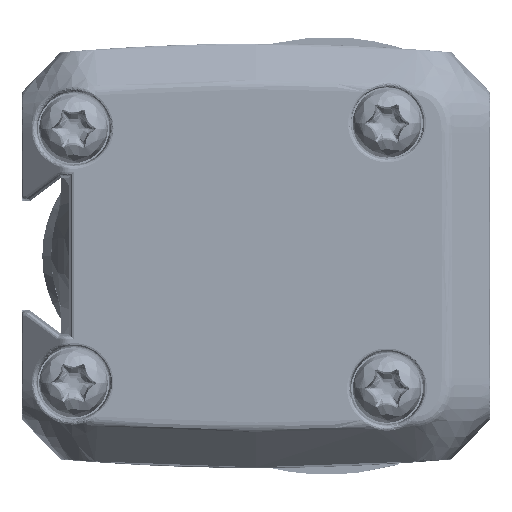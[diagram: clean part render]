
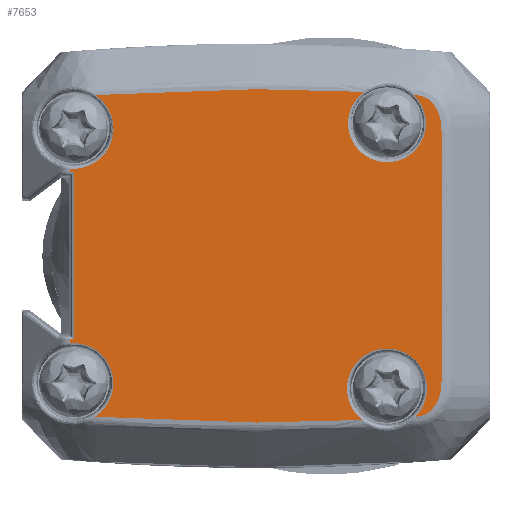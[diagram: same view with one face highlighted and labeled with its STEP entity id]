
A CAD part, left-side view. The second image highlights one B-rep face of the part: STEP entity #7653.
In plain terms, the highlighted planar face has unit normal (-1, 0, 0) as drawn and (0, 0, 1) by its records, which use the part's own axes.
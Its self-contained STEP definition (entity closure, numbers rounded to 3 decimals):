
#2898=CARTESIAN_POINT('',(-10.302,9.807,254.927));
#2914=CARTESIAN_POINT('',(7.86,-12.392,254.927));
#2915=CARTESIAN_POINT('',(8.026,-12.393,254.927));
#2916=CARTESIAN_POINT('',(8.359,-12.386,254.927));
#2917=CARTESIAN_POINT('',(8.856,-12.313,254.927));
#2918=CARTESIAN_POINT('',(9.336,-12.147,254.927));
#2919=CARTESIAN_POINT('',(9.737,-11.891,254.927));
#2920=CARTESIAN_POINT('',(10.043,-11.567,254.927));
#2921=CARTESIAN_POINT('',(10.238,-11.201,254.927));
#2922=CARTESIAN_POINT('',(10.3,-10.867,254.927));
#2923=CARTESIAN_POINT('',(10.314,-10.67,254.927));
#2924=CARTESIAN_POINT('',(10.318,-10.612,254.927));
#2926=DIRECTION('',(1.,0.,0.));
#2927=VECTOR('',#2926,7.86);
#2928=CARTESIAN_POINT('',(0.,-12.392,
254.927));
#2929=LINE('',#2928,#2927);
#2930=CARTESIAN_POINT('',(-10.311,-10.714,
254.927));
#2931=CARTESIAN_POINT('',(-10.309,-10.739,
254.927));
#2932=CARTESIAN_POINT('',(-10.293,-10.901,
254.927));
#2933=CARTESIAN_POINT('',(-10.238,-11.201,
254.927));
#2934=CARTESIAN_POINT('',(-10.043,-11.567,
254.927));
#2935=CARTESIAN_POINT('',(-9.737,-11.891,
254.927));
#2936=CARTESIAN_POINT('',(-9.336,-12.147,
254.927));
#2937=CARTESIAN_POINT('',(-8.856,-12.313,
254.927));
#2938=CARTESIAN_POINT('',(-8.359,-12.386,
254.927));
#2939=CARTESIAN_POINT('',(-8.026,-12.393,
254.927));
#2940=CARTESIAN_POINT('',(-7.86,-12.392,
254.927));
#2942=CARTESIAN_POINT('',(-10.685,-0.495,
254.927));
#2943=CARTESIAN_POINT('',(-10.685,-2.768,
254.927));
#2944=CARTESIAN_POINT('',(-10.629,-5.041,
254.927));
#2945=CARTESIAN_POINT('',(-10.518,-7.31,
254.927));
#2947=CARTESIAN_POINT('',(-10.318,9.614,254.927));
#2948=CARTESIAN_POINT('',(-10.563,6.251,254.927));
#2949=CARTESIAN_POINT('',(-10.685,2.878,254.927));
#2950=CARTESIAN_POINT('',(-10.685,-0.495,
254.927));
#2952=CARTESIAN_POINT('',(-10.302,9.807,254.927));
#2953=CARTESIAN_POINT('',(-10.303,9.804,254.927));
#2954=CARTESIAN_POINT('',(-10.31,9.739,254.927));
#2955=CARTESIAN_POINT('',(-10.314,9.675,254.927));
#2956=CARTESIAN_POINT('',(-10.318,9.614,254.927));
#2958=DIRECTION('',(1.,0.,0.));
#2959=VECTOR('',#2958,0.245);
#2960=CARTESIAN_POINT('',(-5.591,11.401,254.927));
#2961=LINE('',#2960,#2959);
#2962=DIRECTION('',(0.,-1.,0.));
#2963=VECTOR('',#2962,0.242);
#2964=CARTESIAN_POINT('',(-5.346,11.401,254.927));
#2965=LINE('',#2964,#2963);
#2966=DIRECTION('',(1.,0.,0.));
#2967=VECTOR('',#2966,10.692);
#2968=CARTESIAN_POINT('',(-5.346,11.159,254.927));
#2969=LINE('',#2968,#2967);
#2970=DIRECTION('',(0.,-1.,0.));
#2971=VECTOR('',#2970,0.242);
#2972=CARTESIAN_POINT('',(5.346,11.401,254.927));
#2973=LINE('',#2972,#2971);
#2974=DIRECTION('',(1.,0.,0.));
#2975=VECTOR('',#2974,0.245);
#2976=CARTESIAN_POINT('',(5.346,11.401,254.927));
#2977=LINE('',#2976,#2975);
#2978=CARTESIAN_POINT('',(10.318,9.614,254.927));
#2979=CARTESIAN_POINT('',(10.314,9.675,254.927));
#2980=CARTESIAN_POINT('',(10.31,9.739,254.927));
#2981=CARTESIAN_POINT('',(10.303,9.804,254.927));
#2982=CARTESIAN_POINT('',(10.302,9.807,254.927));
#2984=CARTESIAN_POINT('',(10.685,-0.495,
254.927));
#2985=CARTESIAN_POINT('',(10.685,2.878,254.927));
#2986=CARTESIAN_POINT('',(10.563,6.251,254.927));
#2987=CARTESIAN_POINT('',(10.318,9.614,254.927));
#2989=CARTESIAN_POINT('',(10.513,-7.413,254.927));
#2990=CARTESIAN_POINT('',(10.628,-5.109,254.927));
#2991=CARTESIAN_POINT('',(10.685,-2.802,254.927));
#2992=CARTESIAN_POINT('',(10.685,-0.495,
254.927));
#2999=CARTESIAN_POINT('',(8.5,-8.895,254.927));
#3000=DIRECTION('',(0.,0.,-1.));
#3001=DIRECTION('',(0.727,-0.687,0.));
#3002=AXIS2_PLACEMENT_3D('',#2999,#3000,#3001);
#3038=CARTESIAN_POINT('',(10.513,-7.413,254.927));
#3052=CARTESIAN_POINT('',(10.685,-0.495,
254.927));
#3093=CARTESIAN_POINT('',(10.302,9.807,254.927));
#3095=CARTESIAN_POINT('',(10.318,9.614,254.927));
#3111=CARTESIAN_POINT('',(8.15,11.204,254.927));
#3112=DIRECTION('',(0.,0.,-1.));
#3113=DIRECTION('',(0.839,-0.545,0.));
#3114=AXIS2_PLACEMENT_3D('',#3111,#3112,#3113);
#3137=CARTESIAN_POINT('',(-5.591,11.401,254.927));
#3145=CARTESIAN_POINT('',(-5.346,11.401,254.927));
#3147=CARTESIAN_POINT('',(5.591,11.401,254.927));
#3166=CARTESIAN_POINT('',(5.346,11.401,254.927));
#3182=CARTESIAN_POINT('',(-8.15,11.204,254.927));
#3183=DIRECTION('',(0.,0.,-1.));
#3184=DIRECTION('',(0.997,0.076,0.));
#3185=AXIS2_PLACEMENT_3D('',#3182,#3183,#3184);
#3792=CARTESIAN_POINT('',(-10.318,9.614,254.927));
#3803=CARTESIAN_POINT('',(-10.685,-0.495,
254.927));
#3830=CARTESIAN_POINT('',(-10.518,-7.31,
254.927));
#4542=CARTESIAN_POINT('',(10.318,-10.612,254.927));
#4551=CARTESIAN_POINT('',(7.86,-12.392,254.927));
#5315=CARTESIAN_POINT('',(-7.86,-12.392,
254.927));
#5322=DIRECTION('',(-1.,0.,0.));
#5323=VECTOR('',#5322,7.86);
#5324=CARTESIAN_POINT('',(0.,-12.392,
254.927));
#5325=LINE('',#5324,#5323);
#5364=CARTESIAN_POINT('',(-8.5,-8.895,
254.927));
#5365=DIRECTION('',(0.,0.,-1.));
#5366=DIRECTION('',(-0.786,0.618,0.));
#5367=AXIS2_PLACEMENT_3D('',#5364,#5365,#5366);
#5699=VERTEX_POINT('',#3052);
#5701=VERTEX_POINT('',#3095);
#5702=VERTEX_POINT('',#4551);
#5703=CARTESIAN_POINT('',(0.,-12.392,
254.927));
#5704=VERTEX_POINT('',#5703);
#5759=VERTEX_POINT('',#3803);
#5761=VERTEX_POINT('',#3792);
#5762=VERTEX_POINT('',#5315);
#5876=VERTEX_POINT('',#3038);
#5885=VERTEX_POINT('',#4542);
#5909=VERTEX_POINT('',#2930);
#5922=VERTEX_POINT('',#2898);
#5932=VERTEX_POINT('',#3137);
#5940=VERTEX_POINT('',#3147);
#5949=VERTEX_POINT('',#3093);
#5960=VERTEX_POINT('',#3830);
#6000=VERTEX_POINT('',#3145);
#6001=CARTESIAN_POINT('',(-5.346,11.159,254.927));
#6002=VERTEX_POINT('',#6001);
#6005=CARTESIAN_POINT('',(5.346,11.159,254.927));
#6006=VERTEX_POINT('',#6005);
#6017=VERTEX_POINT('',#3166);
#7609=CARTESIAN_POINT('',(-14.142,14.804,254.927));
#7610=DIRECTION('',(0.,0.,1.));
#7611=DIRECTION('',(1.,0.,0.));
#7612=AXIS2_PLACEMENT_3D('',#7609,#7610,#7611);
#7613=PLANE('',#7612);
#7615=ORIENTED_EDGE('',*,*,#7614,.F.);
#7617=ORIENTED_EDGE('',*,*,#7616,.F.);
#7619=ORIENTED_EDGE('',*,*,#7618,.F.);
#7621=ORIENTED_EDGE('',*,*,#7620,.T.);
#7623=ORIENTED_EDGE('',*,*,#7622,.F.);
#7625=ORIENTED_EDGE('',*,*,#7624,.F.);
#7627=ORIENTED_EDGE('',*,*,#7626,.F.);
#7629=ORIENTED_EDGE('',*,*,#7628,.F.);
#7630=ORIENTED_EDGE('',*,*,#7601,.F.);
#7632=ORIENTED_EDGE('',*,*,#7631,.F.);
#7634=ORIENTED_EDGE('',*,*,#7633,.T.);
#7636=ORIENTED_EDGE('',*,*,#7635,.T.);
#7638=ORIENTED_EDGE('',*,*,#7637,.T.);
#7640=ORIENTED_EDGE('',*,*,#7639,.F.);
#7642=ORIENTED_EDGE('',*,*,#7641,.T.);
#7644=ORIENTED_EDGE('',*,*,#7643,.F.);
#7646=ORIENTED_EDGE('',*,*,#7645,.F.);
#7648=ORIENTED_EDGE('',*,*,#7647,.F.);
#7650=ORIENTED_EDGE('',*,*,#7649,.F.);
#7651=EDGE_LOOP('',(#7615,#7617,#7619,#7621,#7623,#7625,#7627,#7629,#7630,#7632,
#7634,#7636,#7638,#7640,#7642,#7644,#7646,#7648,#7650));
#7652=FACE_OUTER_BOUND('',#7651,.F.);
#7653=ADVANCED_FACE('',(#7652),#7613,.T.);
#2925=B_SPLINE_CURVE_WITH_KNOTS('',3,(#2914,#2915,#2916,#2917,#2918,#2919,#2920,
#2921,#2922,#2923,#2924),.UNSPECIFIED.,.F.,.F.,(4,1,1,1,1,1,1,1,4),(0.,
0.149,0.299,0.449,0.599,
0.716,0.833,0.95,1.),.UNSPECIFIED.);
#2941=B_SPLINE_CURVE_WITH_KNOTS('',3,(#2930,#2931,#2932,#2933,#2934,#2935,#2936,
#2937,#2938,#2939,#2940),.UNSPECIFIED.,.F.,.F.,(4,1,1,1,1,1,1,1,4),(0.,
0.021,0.142,0.262,0.383,
0.537,0.692,0.847,1.),.UNSPECIFIED.);
#2946=B_SPLINE_CURVE_WITH_KNOTS('',3,(#2942,#2943,#2944,#2945),.UNSPECIFIED.,
.F.,.F.,(4,4),(0.,1.),.UNSPECIFIED.);
#2951=B_SPLINE_CURVE_WITH_KNOTS('',3,(#2947,#2948,#2949,#2950),.UNSPECIFIED.,
.F.,.F.,(4,4),(0.,1.),.UNSPECIFIED.);
#2957=B_SPLINE_CURVE_WITH_KNOTS('',3,(#2952,#2953,#2954,#2955,#2956),
.UNSPECIFIED.,.F.,.F.,(4,1,4),(0.,0.053,1.),.UNSPECIFIED.);
#2983=B_SPLINE_CURVE_WITH_KNOTS('',3,(#2978,#2979,#2980,#2981,#2982),
.UNSPECIFIED.,.F.,.F.,(4,1,4),(0.,0.947,1.),.UNSPECIFIED.);
#2988=B_SPLINE_CURVE_WITH_KNOTS('',3,(#2984,#2985,#2986,#2987),.UNSPECIFIED.,
.F.,.F.,(4,4),(0.,1.),.UNSPECIFIED.);
#2993=B_SPLINE_CURVE_WITH_KNOTS('',3,(#2989,#2990,#2991,#2992),.UNSPECIFIED.,
.F.,.F.,(4,4),(0.,1.),.UNSPECIFIED.);
#3003=CIRCLE('',#3002,2.5);
#3115=CIRCLE('',#3114,2.566);
#3186=CIRCLE('',#3185,2.566);
#5368=CIRCLE('',#5367,2.566);
#7601=EDGE_CURVE('',#5922,#5761,#2957,.T.);
#7614=EDGE_CURVE('',#5885,#5876,#3003,.T.);
#7616=EDGE_CURVE('',#5702,#5885,#2925,.T.);
#7618=EDGE_CURVE('',#5704,#5702,#2929,.T.);
#7620=EDGE_CURVE('',#5704,#5762,#5325,.T.);
#7622=EDGE_CURVE('',#5909,#5762,#2941,.T.);
#7624=EDGE_CURVE('',#5960,#5909,#5368,.T.);
#7626=EDGE_CURVE('',#5759,#5960,#2946,.T.);
#7628=EDGE_CURVE('',#5761,#5759,#2951,.T.);
#7631=EDGE_CURVE('',#5932,#5922,#3186,.T.);
#7633=EDGE_CURVE('',#5932,#6000,#2961,.T.);
#7635=EDGE_CURVE('',#6000,#6002,#2965,.T.);
#7637=EDGE_CURVE('',#6002,#6006,#2969,.T.);
#7639=EDGE_CURVE('',#6017,#6006,#2973,.T.);
#7641=EDGE_CURVE('',#6017,#5940,#2977,.T.);
#7643=EDGE_CURVE('',#5949,#5940,#3115,.T.);
#7645=EDGE_CURVE('',#5701,#5949,#2983,.T.);
#7647=EDGE_CURVE('',#5699,#5701,#2988,.T.);
#7649=EDGE_CURVE('',#5876,#5699,#2993,.T.);
